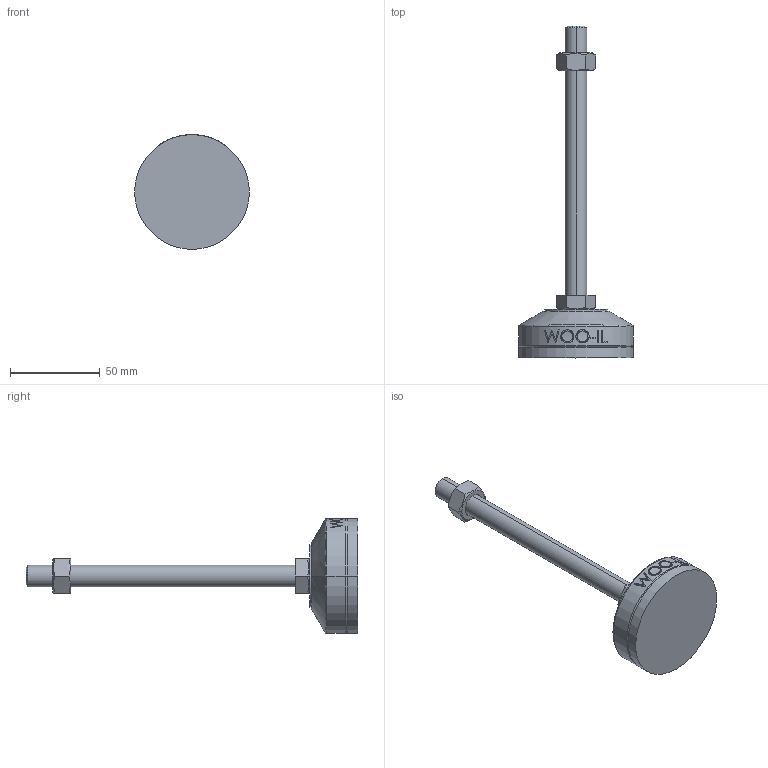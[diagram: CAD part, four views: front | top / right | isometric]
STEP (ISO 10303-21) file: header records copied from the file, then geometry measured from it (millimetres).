
FILE_DESCRIPTION (( 'STEP AP214' ), '1' );
FILE_NAME ('MFZR64-M12-150.step', '2021-03-29T06:55:03', ( '' ), ( '' ), 'SwSTEP 2.0', 'SolidWorks 2019', '' );
FILE_SCHEMA (( 'AUTOMOTIVE_DESIGN' ));
Length unit declared in the file: millimetre
Products named in the file (2): MFZR64-M12-150
Bounding box: 64 x 185 x 64 mm (x, y, z)
Volume: 96578.3 mm3; surface area: 24976.7 mm2
Topology: 4 solids, 4 shells, 103 faces, 235 edges, 150 vertices
Faces by surface type: plane 49, cylinder 18, bspline 16, cone 14, torus 6
Entity records: 4435 total; most frequent: CARTESIAN_POINT 2162, ORIENTED_EDGE 470, DIRECTION 417, EDGE_CURVE 235, AXIS2_PLACEMENT_3D 159, VERTEX_POINT 150, EDGE_LOOP 115, ADVANCED_FACE 103
